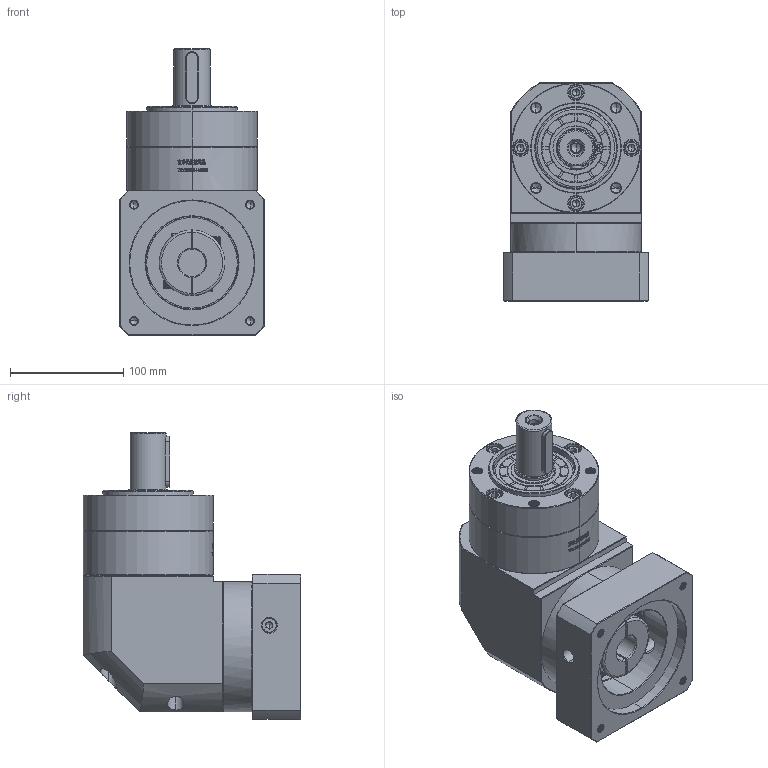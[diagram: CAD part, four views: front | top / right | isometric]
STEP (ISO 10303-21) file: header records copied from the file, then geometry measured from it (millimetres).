
FILE_DESCRIPTION (( 'STEP AP214' ), '1' );
FILE_NAME ('ZER120A-D32-L1-24-110-145-M8.step', '2023-03-14T08:20:58', ( '' ), ( '' ), 'SwSTEP 2.0', 'SolidWorks 2016', '' );
FILE_SCHEMA (( 'AUTOMOTIVE_DESIGN' ));
Length unit declared in the file: millimetre
Products named in the file (1): ZER120A-D32-L1-24-110-145-M8
Bounding box: 128 x 192.4 x 253 mm (x, y, z)
Volume: 2931950.1 mm3; surface area: 247504.6 mm2
Topology: 6 solids, 6 shells, 2954 faces, 7932 edges, 5122 vertices
Faces by surface type: plane 1463, bspline 618, cylinder 532, cone 333, torus 8
Entity records: 169586 total; most frequent: CARTESIAN_POINT 69797, ORIENTED_EDGE 15788, DIRECTION 11263, EDGE_CURVE 7894, VERTEX_POINT 5122, VECTOR 4803, LINE 4803, AXIS2_PLACEMENT_3D 3230
